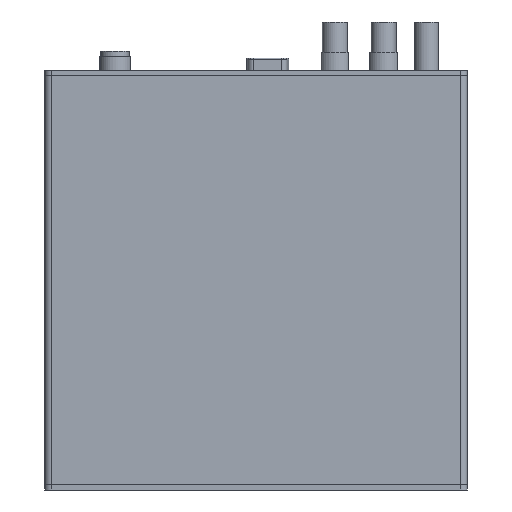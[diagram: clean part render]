
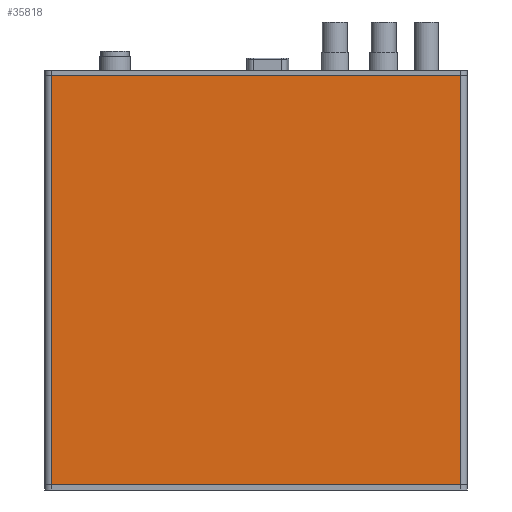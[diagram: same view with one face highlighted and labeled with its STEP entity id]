
A CAD part, front view. The second image highlights one B-rep face of the part: STEP entity #35818.
In plain terms, the highlighted planar face has unit normal (0, -1, 0).
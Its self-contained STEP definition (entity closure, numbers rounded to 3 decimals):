
#1143 = CARTESIAN_POINT ( 'NONE',  ( 162.5, 0., 200. ) ) ;
#2379 = ORIENTED_EDGE ( 'NONE', *, *, #166087, .T. ) ;
#3389 = VERTEX_POINT ( 'NONE', #106649 ) ;
#6839 = VERTEX_POINT ( 'NONE', #45648 ) ;
#15171 = VECTOR ( 'NONE', #46477, 1000. ) ;
#17132 = ORIENTED_EDGE ( 'NONE', *, *, #45187, .T. ) ;
#21586 = CARTESIAN_POINT ( 'NONE',  ( 162.5, 0., 0. ) ) ;
#29462 = ORIENTED_EDGE ( 'NONE', *, *, #66663, .T. ) ;
#32259 = LINE ( 'NONE', #21586, #15171 ) ;
#35818 = ADVANCED_FACE ( 'NONE', ( #122199 ), #135558, .T. ) ;
#35937 = LINE ( 'NONE', #47562, #109253 ) ;
#38972 = VECTOR ( 'NONE', #105890, 1000. ) ;
#41195 = CARTESIAN_POINT ( 'NONE',  ( 162.5, 0., 0. ) ) ;
#42882 = AXIS2_PLACEMENT_3D ( 'NONE', #41195, #121355, #66218 ) ;
#45187 = EDGE_CURVE ( 'NONE', #6839, #146085, #32259, .T. ) ;
#45648 = CARTESIAN_POINT ( 'NONE',  ( 162.5, 0., 40. ) ) ;
#45757 = DIRECTION ( 'NONE',  ( 0., 0., -1. ) ) ;
#46477 = DIRECTION ( 'NONE',  ( 0., 0., 1. ) ) ;
#47562 = CARTESIAN_POINT ( 'NONE',  ( 2.5, 0., 0. ) ) ;
#62922 = VERTEX_POINT ( 'NONE', #103988 ) ;
#66218 = DIRECTION ( 'NONE',  ( 0., 0., -1. ) ) ;
#66554 = CARTESIAN_POINT ( 'NONE',  ( 2.5, 0., 200. ) ) ;
#66663 = EDGE_CURVE ( 'NONE', #62922, #3389, #35937, .T. ) ;
#68314 = DIRECTION ( 'NONE',  ( -1., 0., 0. ) ) ;
#88745 = EDGE_CURVE ( 'NONE', #146085, #62922, #163514, .T. ) ;
#91627 = CARTESIAN_POINT ( 'NONE',  ( 162.5, 0., 40. ) ) ;
#99525 = ORIENTED_EDGE ( 'NONE', *, *, #88745, .T. ) ;
#103988 = CARTESIAN_POINT ( 'NONE',  ( 2.5, 0., 200. ) ) ;
#105890 = DIRECTION ( 'NONE',  ( 1., 0., 0. ) ) ;
#106649 = CARTESIAN_POINT ( 'NONE',  ( 2.5, 0., 40. ) ) ;
#108488 = EDGE_LOOP ( 'NONE', ( #29462, #2379, #17132, #99525 ) ) ;
#109253 = VECTOR ( 'NONE', #45757, 1000. ) ;
#121355 = DIRECTION ( 'NONE',  ( 0., -1., 0. ) ) ;
#122199 = FACE_OUTER_BOUND ( 'NONE', #108488, .T. ) ;
#135558 = PLANE ( 'NONE',  #42882 ) ;
#146085 = VERTEX_POINT ( 'NONE', #1143 ) ;
#151419 = VECTOR ( 'NONE', #68314, 1000. ) ;
#159291 = LINE ( 'NONE', #91627, #38972 ) ;
#163514 = LINE ( 'NONE', #66554, #151419 ) ;
#166087 = EDGE_CURVE ( 'NONE', #3389, #6839, #159291, .T. ) ;
